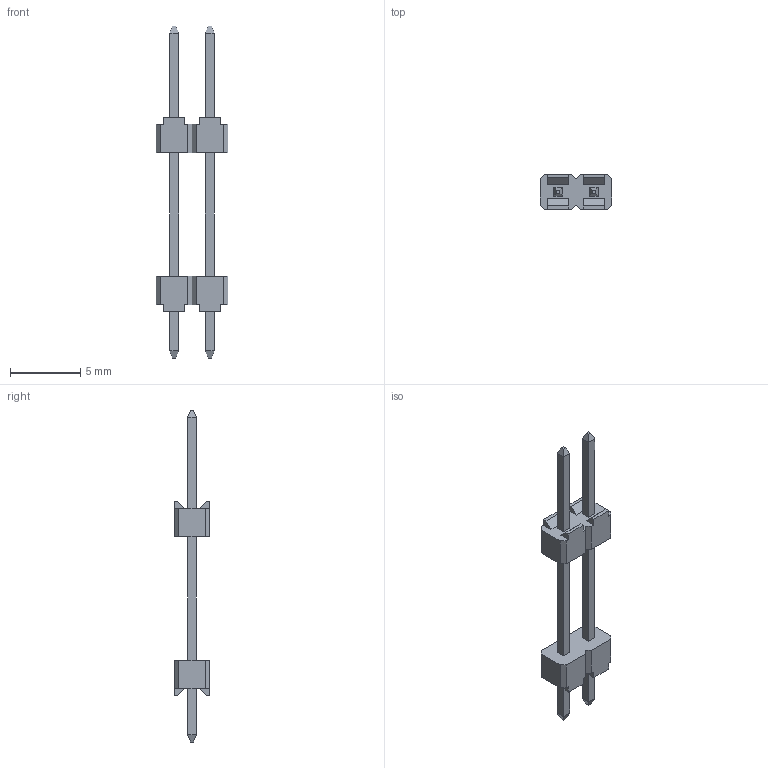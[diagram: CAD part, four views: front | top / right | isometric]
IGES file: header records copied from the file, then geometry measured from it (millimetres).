
Global section: file name: N:\GOLF_VI_2_54mm_UGII\9614XX-X04XX04-XX (TS-2185)\961402-9040604-XX.igs; native system: NX V3.0; preprocessor: UGS NX IGES V4.0; date: 20070618.103025; units: millimetre
Bounding box: 5.08 x 2.5 x 23.6 mm (x, y, z)
Surface area: 216.8 mm2 (no closed solid volume)
Topology: 0 solids, 0 shells, 120 faces, 641 edges, 641 vertices
Faces by surface type: bspline 120
